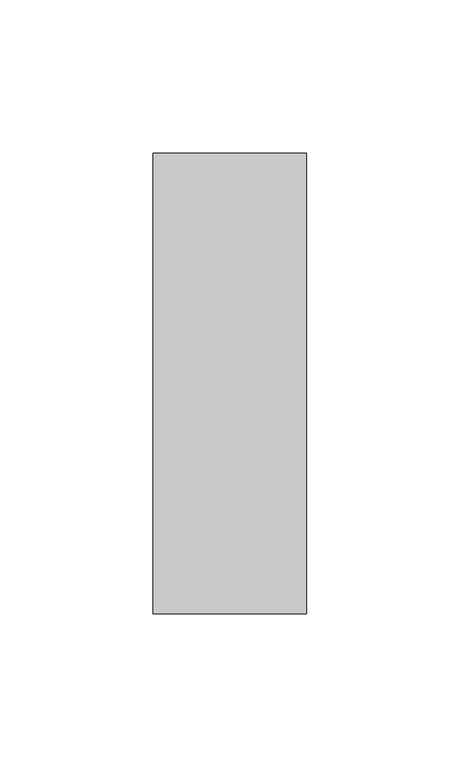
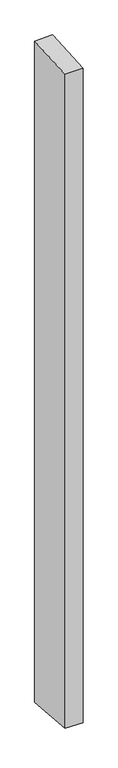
"""IFC4 building model written with IfcOpenShell, lengths in millimetres: member geometry, Прямоугольный импост : 50 x 150 мм."""

import ifcopenshell
import ifcopenshell.guid

model = None  # the IFC model being written
_history = None  # IfcOwnerHistory: only IFC2X3 demands one
_inside = {}  # id of a spatial element -> (the spatial element, [elements in it])
_under = {}  # id of a project, library or spatial element -> (it, [spatial elements below it])
_declared = {}  # id of a project -> (the project, [libraries it declares])
_typed = {}  # id of a type object -> (the type object, [elements of that type])
_made_of = {}  # id of a material, layer set ... -> (it, [elements and type objects made of it])


def new_model(schema):
    """Start an empty IFC model of exactly this schema.

    Asked for "IFC4X3", IfcOpenShell would pick the latest addendum, in which some entities
    have other attributes; the version numbers below select the first issue.
    IFC2X3 requires an IfcOwnerHistory on every rooted entity: one is made here for all.
    """
    global model, _history
    if schema == "IFC4X3":
        model = ifcopenshell.file(schema_version=(4, 3, 0, 0))
    else:
        model = ifcopenshell.file(schema=schema)
    _inside.clear()
    _under.clear()
    _declared.clear()
    _typed.clear()
    _made_of.clear()
    _history = None
    if model.schema == "IFC2X3":
        org = make("IfcOrganization", Name="unknown")
        user = make(
            "IfcPersonAndOrganization",
            ThePerson=make("IfcPerson", FamilyName="unknown"),
            TheOrganization=org,
        )
        app = make(
            "IfcApplication",
            ApplicationDeveloper=org,
            Version="unknown",
            ApplicationFullName="unknown",
            ApplicationIdentifier="unknown",
        )
        _history = make(
            "IfcOwnerHistory",
            OwningUser=user,
            OwningApplication=app,
            ChangeAction="ADDED",
            CreationDate=0,
        )
    return model


def make(cls, **values):
    """One entity of the class cls with the attributes given. An attribute that is None is left unset."""
    return model.create_entity(
        cls, **{name: value for name, value in values.items() if value is not None}
    )


def rooted(cls, **values):
    """An entity with a GlobalId (a new one), such as an element, a storey or a relation."""
    return make(cls, GlobalId=ifcopenshell.guid.new(), OwnerHistory=_history, **values)


def si_unit(unit_type, name, prefix=None):
    """IfcSIUnit, for example si_unit("LENGTHUNIT", "METRE", prefix="MILLI")."""
    return make("IfcSIUnit", UnitType=unit_type, Prefix=prefix, Name=name)


def assignment(units):
    """IfcUnitAssignment: the units of a project."""
    return None if units is None else make("IfcUnitAssignment", Units=units)


def point(xyz):
    """IfcCartesianPoint."""
    return None if xyz is None else make("IfcCartesianPoint", Coordinates=xyz)


def direction(xyz):
    """IfcDirection."""
    return None if xyz is None else make("IfcDirection", DirectionRatios=xyz)


def frame(location, z_axis=None, x_axis=None):
    """IfcAxis2Placement3D, a coordinate frame: its origin and axes. An axis left out is left unset."""
    return make(
        "IfcAxis2Placement3D",
        Location=point(location),
        Axis=direction(z_axis),
        RefDirection=direction(x_axis),
    )


def origin():
    """The frame at (0, 0, 0) with its axes left unset."""
    return frame((0.0, 0.0, 0.0))


def place(relative_to, where):
    """IfcLocalPlacement: puts the frame where relative to a parent placement (None: the world)."""
    return make(
        "IfcLocalPlacement", PlacementRelTo=relative_to, RelativePlacement=where
    )


def context(
    kind, dimensions, precision=None, world=None, true_north=None, identifier=None
):
    """IfcGeometricRepresentationContext, for example the 3D "Model" context."""
    return make(
        "IfcGeometricRepresentationContext",
        ContextIdentifier=identifier,
        ContextType=kind,
        CoordinateSpaceDimension=dimensions,
        Precision=precision,
        WorldCoordinateSystem=world,
        TrueNorth=true_north,
    )


def project(units=None, contexts=None):
    """IfcProject with its units and contexts."""
    return rooted(
        "IfcProject",
        Name="project",
        RepresentationContexts=contexts,
        UnitsInContext=assignment(units),
    )


def spatial(cls, under=None, at=None, **own):
    """A site, building, storey or space (cls), placed at a placement, below another one or the project."""
    s = rooted(cls, ObjectPlacement=at, **own)
    if under is not None:
        _under.setdefault(under.id(), (under, []))[1].append(s)
    return s


def faces_of(points, faces, orient=None, outer=None):
    """IfcFace entities. A face is a list of loops; a loop is a list of indices into points, from 0.

    orient and outer hold one flag for each loop. By default every Orientation is true, the
    first loop of a face is its IfcFaceOuterBound and the others are IfcFaceBound.
    """
    made = []
    for i, loops in enumerate(faces):
        bounds = []
        for j, loop in enumerate(loops):
            is_outer = j == 0 if outer is None else outer[i][j]
            bounds.append(
                make(
                    "IfcFaceOuterBound" if is_outer else "IfcFaceBound",
                    Bound=make("IfcPolyLoop", Polygon=[points[k] for k in loop]),
                    Orientation=True if orient is None else orient[i][j],
                )
            )
        made.append(make("IfcFace", Bounds=bounds))
    return made


def faceted_brep(points, faces, orient=None, outer=None, voids=None):
    """IfcFacetedBrep: a solid bounded by flat faces; with voids (closed shells), ...WithVoids."""
    shared = [point(p) for p in points]
    hull = make("IfcClosedShell", CfsFaces=faces_of(shared, faces, orient, outer))
    if voids is None:
        return make("IfcFacetedBrep", Outer=hull)
    return make(
        "IfcFacetedBrepWithVoids",
        Outer=hull,
        Voids=[
            make(cls, CfsFaces=faces_of(shared, fs, o, b)) for cls, fs, o, b in voids
        ],
    )


def shape(context_of_items, identifier, shape_type, items):
    """IfcShapeRepresentation: the items that make up one representation, for example the "Body"."""
    return make(
        "IfcShapeRepresentation",
        ContextOfItems=context_of_items,
        RepresentationIdentifier=identifier,
        RepresentationType=shape_type,
        Items=items,
    )


def source(mapping_origin, context_of_items, identifier, shape_type, items):
    """IfcRepresentationMap: a shape defined once, which mapped items show again and again."""
    return make(
        "IfcRepresentationMap",
        MappingOrigin=mapping_origin,
        MappedRepresentation=shape(context_of_items, identifier, shape_type, items),
    )


def transform(
    local_origin,
    x_axis=None,
    y_axis=None,
    z_axis=None,
    scale=None,
    scale2=None,
    scale3=None,
    uniform=True,
):
    """IfcCartesianTransformationOperator3D, or its non-uniform kind. x_axis, y_axis, z_axis: its Axis1, 2, 3."""
    if uniform:
        return make(
            "IfcCartesianTransformationOperator3D",
            Axis1=direction(x_axis),
            Axis2=direction(y_axis),
            LocalOrigin=point(local_origin),
            Scale=scale,
            Axis3=direction(z_axis),
        )
    return make(
        "IfcCartesianTransformationOperator3DnonUniform",
        Axis1=direction(x_axis),
        Axis2=direction(y_axis),
        LocalOrigin=point(local_origin),
        Scale=scale,
        Axis3=direction(z_axis),
        Scale2=scale2,
        Scale3=scale3,
    )


def mapped(mapping_source, mapping_target):
    """IfcMappedItem: shows the shape of a source again, moved by a transform."""
    return make(
        "IfcMappedItem", MappingSource=mapping_source, MappingTarget=mapping_target
    )


def made_of(thing, what):
    """Note that an element or type object is made of a material, layer set ...; save() writes the relation."""
    if what is not None:
        _made_of.setdefault(what.id(), (what, []))[1].append(thing)
    return thing


def element(
    cls,
    number,
    at=None,
    inside=None,
    cuts=None,
    type_object=None,
    material=None,
    context=None,
    identifier="Body",
    shape_type=None,
    held_by="IfcProductDefinitionShape",
    body=None,
    shapes=None,
    **own,
):
    """One element of the class cls, such as IfcWall. Its Tag is "e" and its number.

    at: its placement. inside: the storey or other place that contains it. cuts: it is an
    opening in that element (IfcRelVoidsElement). A single representation is given by context,
    identifier, shape_type and body (its items); several are given by shapes. held_by: the class
    of the entity that holds the representations. save() writes the other relations.
    """
    e = rooted(cls, Tag="e%d" % number, ObjectPlacement=at, **own)
    if body is not None:
        shapes = [shape(context, identifier, shape_type, body)]
    if shapes is not None:
        e.Representation = make(held_by, Representations=shapes)
    if inside is not None:
        _inside.setdefault(inside.id(), (inside, []))[1].append(e)
    if cuts is not None:
        rooted(
            "IfcRelVoidsElement", RelatingBuildingElement=cuts, RelatedOpeningElement=e
        )
    if type_object is not None:
        _typed.setdefault(type_object.id(), (type_object, []))[1].append(e)
    return made_of(e, material)


def aggregate(whole, parts):
    """IfcRelAggregates: a whole, such as a stair, and the parts it consists of."""
    return rooted("IfcRelAggregates", RelatingObject=whole, RelatedObjects=parts)


def save(model, path):
    """Write the relations noted so far, then the file.

    IfcRelAggregates (storeys below a building ...), IfcRelContainedInSpatialStructure (elements
    in a storey), IfcRelDefinesByType, IfcRelAssociatesMaterial and IfcRelDeclares: one each for
    every whole, place, type object, material and project.
    """
    for whole, parts in _under.values():
        aggregate(whole, parts)
    for where, things in _inside.values():
        rooted(
            "IfcRelContainedInSpatialStructure",
            RelatedElements=things,
            RelatingStructure=where,
        )
    for kind, things in _typed.values():
        rooted("IfcRelDefinesByType", RelatedObjects=things, RelatingType=kind)
    for what, things in _made_of.values():
        rooted("IfcRelAssociatesMaterial", RelatedObjects=things, RelatingMaterial=what)
    for by, libraries in _declared.values():
        rooted("IfcRelDeclares", RelatingContext=by, RelatedDefinitions=libraries)
    model.write(path)


def member_695dda4c(model_context):
    return source(origin(), model_context, "Body", "Brep", [
        faceted_brep([(-25.0, 75.0, 3.9158741), (25.0, 75.0, 4.93791), (25.0, 75.0, -1977.750099), (-25.0, 75.0, -1976.4041877), (-25.0, -75.0, -4.93791), (-25.0, -75.0, -1963.4178756), (25.0, -75.0, -3.9158741), (25.0, -75.0, -1964.7637868)], [[[0, 1, 2, 3]], [[4, 0, 3, 5]], [[6, 4, 5, 7]], [[1, 6, 7, 2]], [[1, 0, 4, 6]], [[2, 7, 5, 3]]]),
    ])


if __name__ == "__main__":
    model = new_model("IFC4")
    model_context = context("Model", 3, world=origin())
    ifc_project = project(units=[si_unit("LENGTHUNIT", "METRE", prefix="MILLI")], contexts=[model_context])
    site = spatial("IfcSite", under=ifc_project)
    building = spatial("IfcBuilding", under=site)
    placement = place(None, origin())
    member_shape = member_695dda4c(model_context)
    element("IfcMember", 1, ObjectType="Прямоугольный импост : 50 x 150 мм", at=placement, inside=building, context=model_context, shape_type="MappedRepresentation", body=[
        mapped(member_shape, transform((0.0, 0.0, 0.0), x_axis=(1.0, 0.0, 0.0), y_axis=(0.0, 1.0, 0.0), z_axis=(0.0, 0.0, 1.0))),
    ])
    save(model, "model.ifc")
